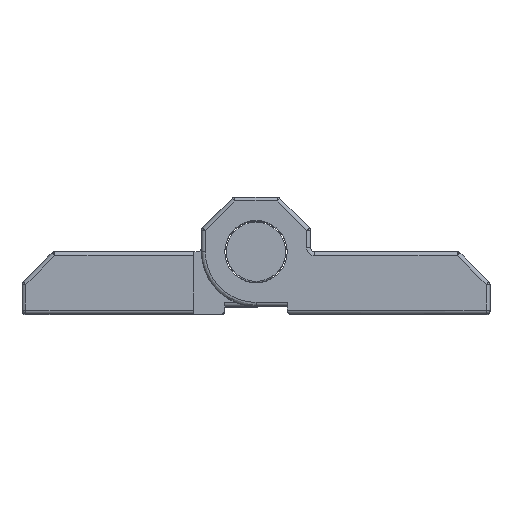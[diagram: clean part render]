
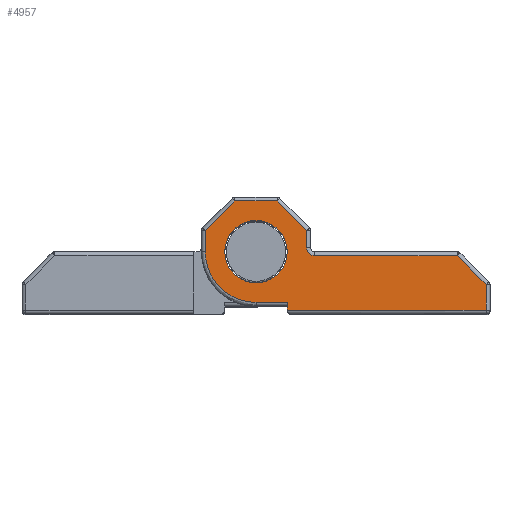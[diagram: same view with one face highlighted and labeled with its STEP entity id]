
A CAD part, top view. The second image highlights one B-rep face of the part: STEP entity #4957.
In plain terms, the highlighted planar face has unit normal (0, 0, 1) as drawn and (0, 0, -1) by its records, which use the part's own axes.
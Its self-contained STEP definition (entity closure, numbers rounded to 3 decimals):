
#128 = VERTEX_POINT ( 'NONE', #3502 ) ;
#139 = CARTESIAN_POINT ( 'NONE',  ( -6.914, -0.5, -30. ) ) ;
#140 = DIRECTION ( 'NONE',  ( 0., 1., 0. ) ) ;
#155 =( BOUNDED_CURVE ( )  B_SPLINE_CURVE ( 3, ( #2136, #4453, #1270, #1673 ),
 .UNSPECIFIED., .F., .T. ) 
 B_SPLINE_CURVE_WITH_KNOTS ( ( 4, 4 ),
 ( 0., 1. ),
 .UNSPECIFIED. ) 
 CURVE ( )  GEOMETRIC_REPRESENTATION_ITEM ( )  RATIONAL_B_SPLINE_CURVE ( ( 1., 0.805, 0.805, 1. ) ) 
 REPRESENTATION_ITEM ( '' )  );
#176 = CARTESIAN_POINT ( 'NONE',  ( 0., 6.5, -30. ) ) ;
#205 = EDGE_CURVE ( 'NONE', #388, #327, #3537, .T. ) ;
#229 = LINE ( 'NONE', #176, #4653 ) ;
#258 = CARTESIAN_POINT ( 'NONE',  ( -29.5, -4.207, -30. ) ) ;
#315 = EDGE_CURVE ( 'NONE', #2672, #1716, #3688, .T. ) ;
#327 = VERTEX_POINT ( 'NONE', #3713 ) ;
#331 = DIRECTION ( 'NONE',  ( -1., 0., 0. ) ) ;
#345 = ORIENTED_EDGE ( 'NONE', *, *, #1909, .F. ) ;
#388 = VERTEX_POINT ( 'NONE', #933 ) ;
#405 = ORIENTED_EDGE ( 'NONE', *, *, #884, .F. ) ;
#434 = ORIENTED_EDGE ( 'NONE', *, *, #3796, .F. ) ;
#534 = VERTEX_POINT ( 'NONE', #4066 ) ;
#579 = ORIENTED_EDGE ( 'NONE', *, *, #2874, .F. ) ;
#581 = DIRECTION ( 'NONE',  ( 0., -1., 0. ) ) ;
#605 = CARTESIAN_POINT ( 'NONE',  ( 4., 0., -30. ) ) ;
#611 = EDGE_CURVE ( 'NONE', #1555, #4698, #3675, .T. ) ;
#648 = CARTESIAN_POINT ( 'NONE',  ( -25.793, -0.5, -30. ) ) ;
#705 = VECTOR ( 'NONE', #4560, 1000. ) ;
#732 = CARTESIAN_POINT ( 'NONE',  ( 6.5, 2.692, -30. ) ) ;
#736 = ORIENTED_EDGE ( 'NONE', *, *, #1833, .F. ) ;
#797 = VERTEX_POINT ( 'NONE', #258 ) ;
#884 = EDGE_CURVE ( 'NONE', #1497, #797, #4618, .T. ) ;
#893 = ORIENTED_EDGE ( 'NONE', *, *, #2731, .T. ) ;
#933 = CARTESIAN_POINT ( 'NONE',  ( -4., -7.5, -30. ) ) ;
#957 = VECTOR ( 'NONE', #581, 1000. ) ;
#970 = DIRECTION ( 'NONE',  ( -1., 0., 0. ) ) ;
#994 = EDGE_CURVE ( 'NONE', #3093, #1497, #2130, .T. ) ;
#1043 = CARTESIAN_POINT ( 'NONE',  ( 0., -6.5, -30. ) ) ;
#1096 = DIRECTION ( 'NONE',  ( -0.707, -0.707, 0. ) ) ;
#1193 = DIRECTION ( 'NONE',  ( 1., 0., 0. ) ) ;
#1213 = CARTESIAN_POINT ( 'NONE',  ( 6.5, 2.692, -30. ) ) ;
#1216 = DIRECTION ( 'NONE',  ( 0., 0., 1. ) ) ;
#1225 = ORIENTED_EDGE ( 'NONE', *, *, #315, .F. ) ;
#1253 = DIRECTION ( 'NONE',  ( -0.707, -0.707, 0. ) ) ;
#1270 = CARTESIAN_POINT ( 'NONE',  ( 6.5, -3.808, -30. ) ) ;
#1338 = CARTESIAN_POINT ( 'NONE',  ( -29.5, 0., -30. ) ) ;
#1344 = CARTESIAN_POINT ( 'NONE',  ( -4., 0., -30. ) ) ;
#1352 = VECTOR ( 'NONE', #1096, 1000. ) ;
#1377 = ORIENTED_EDGE ( 'NONE', *, *, #3677, .F. ) ;
#1424 = CARTESIAN_POINT ( 'NONE',  ( -6.5, 2.692, -30. ) ) ;
#1429 = VECTOR ( 'NONE', #3159, 1000. ) ;
#1430 = ORIENTED_EDGE ( 'NONE', *, *, #3644, .F. ) ;
#1497 = VERTEX_POINT ( 'NONE', #1989 ) ;
#1555 = VERTEX_POINT ( 'NONE', #732 ) ;
#1588 = LINE ( 'NONE', #4735, #2807 ) ;
#1620 = CARTESIAN_POINT ( 'NONE',  ( 0., -7.5, -30. ) ) ;
#1649 = DIRECTION ( 'NONE',  ( 0., 0., 1. ) ) ;
#1668 = CARTESIAN_POINT ( 'NONE',  ( 0., -0.5, -30. ) ) ;
#1671 = CARTESIAN_POINT ( 'NONE',  ( -6.5, -0.086, -30. ) ) ;
#1673 = CARTESIAN_POINT ( 'NONE',  ( 6.5, 0., -30. ) ) ;
#1674 = PLANE ( 'NONE',  #1890 ) ;
#1716 = VERTEX_POINT ( 'NONE', #4160 ) ;
#1782 = EDGE_LOOP ( 'NONE', ( #3289, #1377, #345, #405, #3214, #579, #1225, #3418, #736, #3081, #434, #2642, #1430 ) ) ;
#1833 = EDGE_CURVE ( 'NONE', #4698, #534, #229, .T. ) ;
#1846 = CARTESIAN_POINT ( 'NONE',  ( -7.5, -0.5, -30. ) ) ;
#1890 = AXIS2_PLACEMENT_3D ( 'NONE', #3319, #2471, #4892 ) ;
#1909 = EDGE_CURVE ( 'NONE', #797, #2690, #2662, .T. ) ;
#1989 = CARTESIAN_POINT ( 'NONE',  ( -25.793, -0.5, -30. ) ) ;
#2004 = EDGE_CURVE ( 'NONE', #534, #2672, #2480, .T. ) ;
#2106 = DIRECTION ( 'NONE',  ( -1., 0., 0. ) ) ;
#2130 = LINE ( 'NONE', #1668, #3030 ) ;
#2134 =( BOUNDED_CURVE ( )  B_SPLINE_CURVE ( 3, ( #4910, #1671, #139, #4425 ),
 .UNSPECIFIED., .F., .F. ) 
 B_SPLINE_CURVE_WITH_KNOTS ( ( 4, 4 ),
 ( 0., 1. ),
 .UNSPECIFIED. ) 
 CURVE ( )  GEOMETRIC_REPRESENTATION_ITEM ( )  RATIONAL_B_SPLINE_CURVE ( ( 1., 0.805, 0.805, 1. ) ) 
 REPRESENTATION_ITEM ( '' )  );
#2136 = CARTESIAN_POINT ( 'NONE',  ( 0., -6.5, -30. ) ) ;
#2137 = FACE_BOUND ( 'NONE', #4354, .T. ) ;
#2350 = CARTESIAN_POINT ( 'NONE',  ( 0., 0., -30. ) ) ;
#2471 = DIRECTION ( 'NONE',  ( 0., 0., 1. ) ) ;
#2480 = LINE ( 'NONE', #4028, #3841 ) ;
#2634 = AXIS2_PLACEMENT_3D ( 'NONE', #2350, #1216, #2846 ) ;
#2642 = ORIENTED_EDGE ( 'NONE', *, *, #3729, .F. ) ;
#2662 = LINE ( 'NONE', #1338, #705 ) ;
#2672 = VERTEX_POINT ( 'NONE', #1424 ) ;
#2690 = VERTEX_POINT ( 'NONE', #4550 ) ;
#2731 = EDGE_CURVE ( 'NONE', #4782, #3723, #3519, .T. ) ;
#2776 = CARTESIAN_POINT ( 'NONE',  ( -4., 0., -30. ) ) ;
#2777 = EDGE_CURVE ( 'NONE', #3723, #4782, #4584, .T. ) ;
#2807 = VECTOR ( 'NONE', #1193, 1000. ) ;
#2817 = DIRECTION ( 'NONE',  ( -0.707, 0.707, 0. ) ) ;
#2846 = DIRECTION ( 'NONE',  ( -1., 0., 0. ) ) ;
#2874 = EDGE_CURVE ( 'NONE', #1716, #3093, #2134, .T. ) ;
#2968 = VECTOR ( 'NONE', #3200, 1000. ) ;
#3030 = VECTOR ( 'NONE', #2106, 1000. ) ;
#3081 = ORIENTED_EDGE ( 'NONE', *, *, #611, .F. ) ;
#3093 = VERTEX_POINT ( 'NONE', #1846 ) ;
#3137 = VERTEX_POINT ( 'NONE', #1043 ) ;
#3154 = LINE ( 'NONE', #1620, #2968 ) ;
#3159 = DIRECTION ( 'NONE',  ( 0., 1., 0. ) ) ;
#3200 = DIRECTION ( 'NONE',  ( 1., 0., 0. ) ) ;
#3214 = ORIENTED_EDGE ( 'NONE', *, *, #994, .F. ) ;
#3289 = ORIENTED_EDGE ( 'NONE', *, *, #205, .F. ) ;
#3319 = CARTESIAN_POINT ( 'NONE',  ( 0., 0., -30. ) ) ;
#3321 = CARTESIAN_POINT ( 'NONE',  ( -6.5, 0., -30. ) ) ;
#3418 = ORIENTED_EDGE ( 'NONE', *, *, #2004, .F. ) ;
#3500 = VECTOR ( 'NONE', #2817, 1000. ) ;
#3502 = CARTESIAN_POINT ( 'NONE',  ( 6.5, 0., -30. ) ) ;
#3519 = CIRCLE ( 'NONE', #2634, 4. ) ;
#3537 = LINE ( 'NONE', #2776, #1429 ) ;
#3618 = VECTOR ( 'NONE', #140, 1000. ) ;
#3644 = EDGE_CURVE ( 'NONE', #327, #3137, #1588, .T. ) ;
#3650 = ORIENTED_EDGE ( 'NONE', *, *, #2777, .T. ) ;
#3675 = LINE ( 'NONE', #1213, #3500 ) ;
#3677 = EDGE_CURVE ( 'NONE', #2690, #388, #3154, .T. ) ;
#3688 = LINE ( 'NONE', #3321, #957 ) ;
#3713 = CARTESIAN_POINT ( 'NONE',  ( -4., -6.5, -30. ) ) ;
#3723 = VERTEX_POINT ( 'NONE', #1344 ) ;
#3729 = EDGE_CURVE ( 'NONE', #3137, #128, #155, .T. ) ;
#3796 = EDGE_CURVE ( 'NONE', #128, #1555, #3993, .T. ) ;
#3841 = VECTOR ( 'NONE', #1253, 1000. ) ;
#3993 = LINE ( 'NONE', #4791, #3618 ) ;
#4028 = CARTESIAN_POINT ( 'NONE',  ( -2.692, 6.5, -30. ) ) ;
#4066 = CARTESIAN_POINT ( 'NONE',  ( -2.692, 6.5, -30. ) ) ;
#4160 = CARTESIAN_POINT ( 'NONE',  ( -6.5, 0.5, -30. ) ) ;
#4309 = CARTESIAN_POINT ( 'NONE',  ( 0., 0., -30. ) ) ;
#4354 = EDGE_LOOP ( 'NONE', ( #3650, #893 ) ) ;
#4391 = CARTESIAN_POINT ( 'NONE',  ( 2.692, 6.5, -30. ) ) ;
#4425 = CARTESIAN_POINT ( 'NONE',  ( -7.5, -0.5, -30. ) ) ;
#4453 = CARTESIAN_POINT ( 'NONE',  ( 3.808, -6.5, -30. ) ) ;
#4550 = CARTESIAN_POINT ( 'NONE',  ( -29.5, -7.5, -30. ) ) ;
#4560 = DIRECTION ( 'NONE',  ( 0., -1., 0. ) ) ;
#4584 = CIRCLE ( 'NONE', #5001, 4. ) ;
#4618 = LINE ( 'NONE', #648, #1352 ) ;
#4653 = VECTOR ( 'NONE', #970, 1000. ) ;
#4698 = VERTEX_POINT ( 'NONE', #4391 ) ;
#4735 = CARTESIAN_POINT ( 'NONE',  ( 0., -6.5, -30. ) ) ;
#4782 = VERTEX_POINT ( 'NONE', #605 ) ;
#4791 = CARTESIAN_POINT ( 'NONE',  ( 6.5, 0., -30. ) ) ;
#4868 = FACE_OUTER_BOUND ( 'NONE', #1782, .T. ) ;
#4892 = DIRECTION ( 'NONE',  ( 1., 0., 0. ) ) ;
#4910 = CARTESIAN_POINT ( 'NONE',  ( -6.5, 0.5, -30. ) ) ;
#4957 = ADVANCED_FACE ( 'NONE', ( #4868, #2137 ), #1674, .F. ) ;
#5001 = AXIS2_PLACEMENT_3D ( 'NONE', #4309, #1649, #331 ) ;
